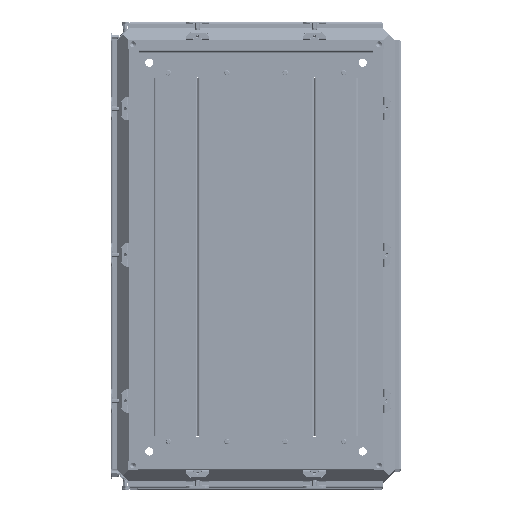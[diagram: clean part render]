
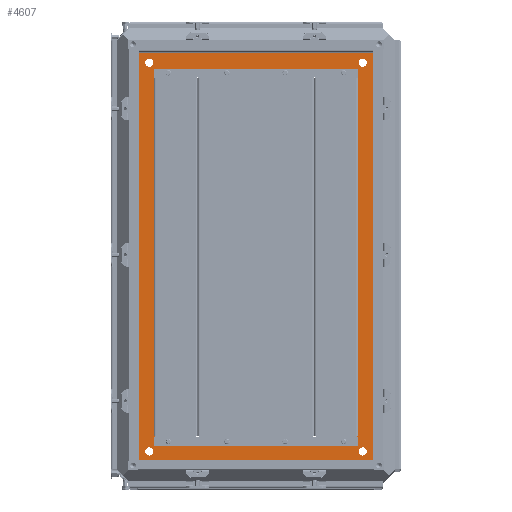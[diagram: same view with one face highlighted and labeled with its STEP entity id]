
A CAD part, top view. The second image highlights one B-rep face of the part: STEP entity #4607.
In plain terms, the highlighted planar face has unit normal (0, 0, 1).
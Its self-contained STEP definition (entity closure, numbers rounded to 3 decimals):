
#4607=ADVANCED_FACE('',(#18339,#18341,#18343,#18345,#18347,#18349),#18351,.F.);
#18339=FACE_BOUND('',#18340,.T.);
#18340=EDGE_LOOP('',(#125033,#125034,#125035,#125036));
#18341=FACE_BOUND('',#18342,.T.);
#18342=EDGE_LOOP('',(#125037,#125038,#125039,#125040));
#18343=FACE_BOUND('',#18344,.T.);
#18344=EDGE_LOOP('',(#125041));
#18345=FACE_BOUND('',#18346,.T.);
#18346=EDGE_LOOP('',(#125042));
#18347=FACE_BOUND('',#18348,.T.);
#18348=EDGE_LOOP('',(#125043));
#18349=FACE_BOUND('',#18350,.T.);
#18350=EDGE_LOOP('',(#125044));
#18351=PLANE('',#18352);
#18352=AXIS2_PLACEMENT_3D('',#18353,#18354,#18355);
#18353=CARTESIAN_POINT('',(0.,0.,-47.5));
#18354=DIRECTION('',(0.,0.,-1.));
#18355=DIRECTION('',(0.,1.,0.));
#125033=ORIENTED_EDGE('',*,*,#189967,.F.);
#125034=ORIENTED_EDGE('',*,*,#189968,.F.);
#125035=ORIENTED_EDGE('',*,*,#189969,.T.);
#125036=ORIENTED_EDGE('',*,*,#189970,.T.);
#125037=ORIENTED_EDGE('',*,*,#189971,.T.);
#125038=ORIENTED_EDGE('',*,*,#189972,.F.);
#125039=ORIENTED_EDGE('',*,*,#189973,.F.);
#125040=ORIENTED_EDGE('',*,*,#189974,.F.);
#125041=ORIENTED_EDGE('',*,*,#189975,.T.);
#125042=ORIENTED_EDGE('',*,*,#189976,.F.);
#125043=ORIENTED_EDGE('',*,*,#189977,.F.);
#125044=ORIENTED_EDGE('',*,*,#189978,.T.);
#189967=EDGE_CURVE('',#223342,#223343,#223344,.F.);
#189968=EDGE_CURVE('',#223345,#223342,#223346,.F.);
#189969=EDGE_CURVE('',#223345,#223347,#223348,.F.);
#189970=EDGE_CURVE('',#223347,#223343,#223349,.F.);
#189971=EDGE_CURVE('',#223350,#223351,#223352,.F.);
#189972=EDGE_CURVE('',#223353,#223351,#223354,.F.);
#189973=EDGE_CURVE('',#223355,#223353,#223356,.F.);
#189974=EDGE_CURVE('',#223350,#223355,#223357,.F.);
#189975=EDGE_CURVE('',#223358,#223358,#223359,.T.);
#189976=EDGE_CURVE('',#223360,#223360,#223361,.T.);
#189977=EDGE_CURVE('',#223362,#223362,#223363,.T.);
#189978=EDGE_CURVE('',#223364,#223364,#223365,.T.);
#223342=VERTEX_POINT('',#281419);
#223343=VERTEX_POINT('',#281420);
#223344=LINE('',#281421,#281422);
#223345=VERTEX_POINT('',#281424);
#223346=LINE('',#281425,#281426);
#223347=VERTEX_POINT('',#281428);
#223348=LINE('',#281429,#281430);
#223349=LINE('',#281432,#281433);
#223350=VERTEX_POINT('',#281435);
#223351=VERTEX_POINT('',#281436);
#223352=LINE('',#281437,#281438);
#223353=VERTEX_POINT('',#281440);
#223354=LINE('',#281441,#281442);
#223355=VERTEX_POINT('',#281444);
#223356=LINE('',#281445,#281446);
#223357=LINE('',#281448,#281449);
#223358=VERTEX_POINT('',#281451);
#223359=CIRCLE('',#281452,7.);
#223360=VERTEX_POINT('',#281456);
#223361=CIRCLE('',#281457,7.);
#223362=VERTEX_POINT('',#281461);
#223363=CIRCLE('',#281462,7.);
#223364=VERTEX_POINT('',#281466);
#223365=CIRCLE('',#281467,7.);
#281419=CARTESIAN_POINT('',(-1.6,1.6,-47.5));
#281420=CARTESIAN_POINT('',(-400.4,1.6,-47.5));
#281421=CARTESIAN_POINT('',(-400.4,1.6,-47.5));
#281422=VECTOR('',#281423,1.);
#281423=DIRECTION('',(1.,0.,0.));
#281424=CARTESIAN_POINT('',(-1.6,700.4,-47.5));
#281425=CARTESIAN_POINT('',(-1.6,1.6,-47.5));
#281426=VECTOR('',#281427,1.);
#281427=DIRECTION('',(0.,1.,0.));
#281428=CARTESIAN_POINT('',(-400.4,700.4,-47.5));
#281429=CARTESIAN_POINT('',(-400.4,700.4,-47.5));
#281430=VECTOR('',#281431,1.);
#281431=DIRECTION('',(1.,0.,0.));
#281432=CARTESIAN_POINT('',(-400.4,1.6,-47.5));
#281433=VECTOR('',#281434,1.);
#281434=DIRECTION('',(0.,1.,0.));
#281435=CARTESIAN_POINT('',(-39.4,39.4,-47.5));
#281436=CARTESIAN_POINT('',(-362.6,39.4,-47.5));
#281437=CARTESIAN_POINT('',(-362.6,39.4,-47.5));
#281438=VECTOR('',#281439,1.);
#281439=DIRECTION('',(1.,0.,0.));
#281440=CARTESIAN_POINT('',(-362.6,662.6,-47.5));
#281441=CARTESIAN_POINT('',(-362.6,39.4,-47.5));
#281442=VECTOR('',#281443,1.);
#281443=DIRECTION('',(0.,1.,0.));
#281444=CARTESIAN_POINT('',(-39.4,662.6,-47.5));
#281445=CARTESIAN_POINT('',(-362.6,662.6,-47.5));
#281446=VECTOR('',#281447,1.);
#281447=DIRECTION('',(1.,0.,0.));
#281448=CARTESIAN_POINT('',(-39.4,662.6,-47.5));
#281449=VECTOR('',#281450,1.);
#281450=DIRECTION('',(0.,-1.,0.));
#281451=CARTESIAN_POINT('',(-18.5,25.5,-47.5));
#281452=AXIS2_PLACEMENT_3D('',#281453,#281454,#281455);
#281453=CARTESIAN_POINT('',(-18.5,18.5,-47.5));
#281454=DIRECTION('',(0.,0.,-1.));
#281455=DIRECTION('',(0.,1.,0.));
#281456=CARTESIAN_POINT('',(-383.5,25.5,-47.5));
#281457=AXIS2_PLACEMENT_3D('',#281458,#281459,#281460);
#281458=CARTESIAN_POINT('',(-383.5,18.5,-47.5));
#281459=DIRECTION('',(0.,0.,1.));
#281460=DIRECTION('',(0.,1.,0.));
#281461=CARTESIAN_POINT('',(-18.5,676.5,-47.5));
#281462=AXIS2_PLACEMENT_3D('',#281463,#281464,#281465);
#281463=CARTESIAN_POINT('',(-18.5,683.5,-47.5));
#281464=DIRECTION('',(0.,0.,1.));
#281465=DIRECTION('',(0.,-1.,0.));
#281466=CARTESIAN_POINT('',(-383.5,676.5,-47.5));
#281467=AXIS2_PLACEMENT_3D('',#281468,#281469,#281470);
#281468=CARTESIAN_POINT('',(-383.5,683.5,-47.5));
#281469=DIRECTION('',(0.,0.,-1.));
#281470=DIRECTION('',(0.,-1.,0.));
